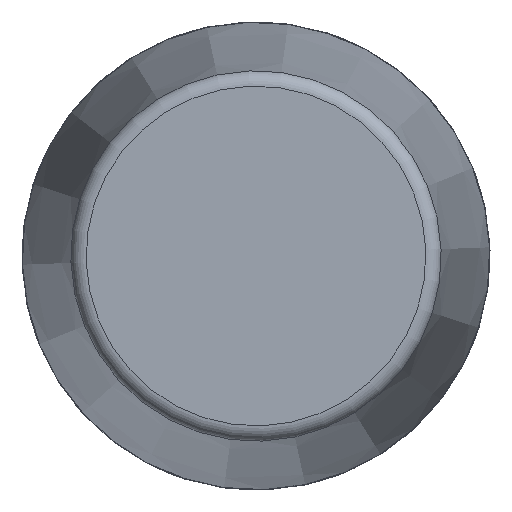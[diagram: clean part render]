
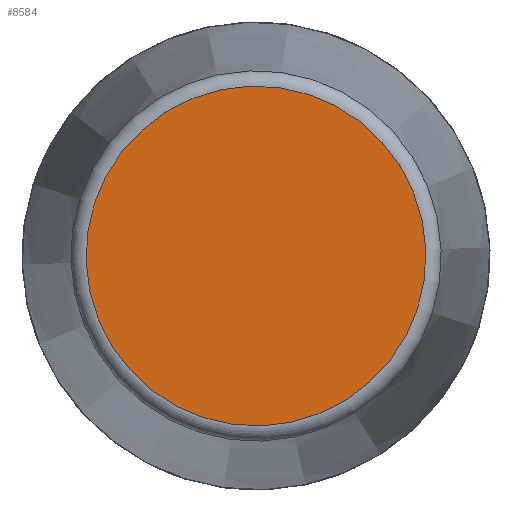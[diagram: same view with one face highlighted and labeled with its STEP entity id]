
A CAD part, front view. The second image highlights one B-rep face of the part: STEP entity #8584.
In plain terms, the highlighted planar face has unit normal (0, -1, 0) as drawn and (1, 0, 0) by its records, which use the part's own axes.
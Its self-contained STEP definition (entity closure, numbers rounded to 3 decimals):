
#2425=PLANE('',#8974);
#2999=FACE_OUTER_BOUND('',#3549,.T.);
#3549=EDGE_LOOP('',(#8082));
#3590=CIRCLE('',#8970,110.67);
#4422=VERTEX_POINT('',#15919);
#5645=EDGE_CURVE('',#4422,#4422,#3590,.T.);
#8082=ORIENTED_EDGE('',*,*,#5645,.F.);
#8584=ADVANCED_FACE('',(#2999),#2425,.T.);
#8970=AXIS2_PLACEMENT_3D('',#15920,#10382,#10383);
#8974=AXIS2_PLACEMENT_3D('',#15926,#10390,#10391);
#10382=DIRECTION('center_axis',(-1.,0.,0.));
#10383=DIRECTION('ref_axis',(0.,0.,
1.));
#10390=DIRECTION('center_axis',(1.,0.,0.));
#10391=DIRECTION('ref_axis',(0.,0.,-1.));
#15919=CARTESIAN_POINT('',(562.,0.,-110.67));
#15920=CARTESIAN_POINT('Origin',(562.,0.,0.));
#15926=CARTESIAN_POINT('Origin',(562.,0.,0.));
